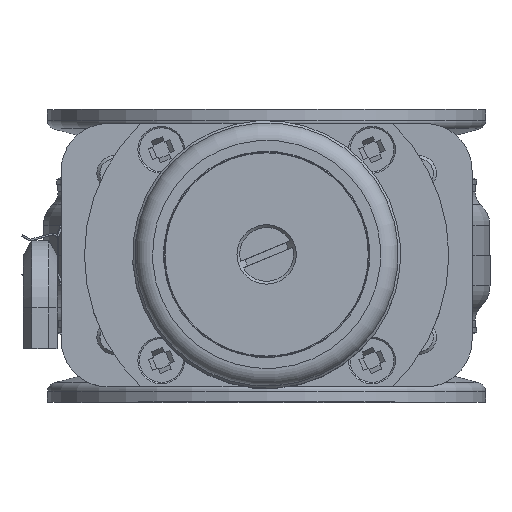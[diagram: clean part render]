
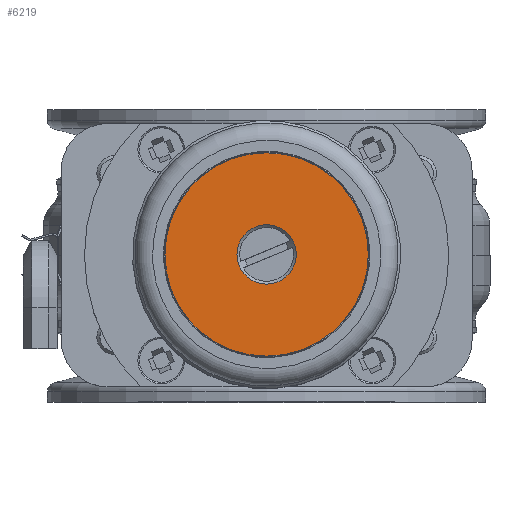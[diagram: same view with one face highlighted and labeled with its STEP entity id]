
A CAD part, top view. The second image highlights one B-rep face of the part: STEP entity #6219.
In plain terms, the highlighted planar face has unit normal (0, 0, 1) as drawn and (1, 0, 0) by its records, which use the part's own axes.
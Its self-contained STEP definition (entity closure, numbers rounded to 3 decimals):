
#6219=ADVANCED_FACE('',(#7179,#7180),#6690,.T.);
#6690=PLANE('',#12913);
#7179=FACE_BOUND('',#7518,.T.);
#7180=FACE_BOUND('',#7519,.T.);
#7518=EDGE_LOOP('',(#8351));
#7519=EDGE_LOOP('',(#8352));
#8351=ORIENTED_EDGE('',*,*,#11398,.T.);
#8352=ORIENTED_EDGE('',*,*,#11399,.F.);
#10554=VERTEX_POINT('',#20694);
#10555=VERTEX_POINT('',#20696);
#11398=EDGE_CURVE('',#10554,#10554,#12510,.T.);
#11399=EDGE_CURVE('',#10555,#10555,#12511,.T.);
#12510=CIRCLE('',#12911,5.075);
#12511=CIRCLE('',#12912,17.375);
#12911=AXIS2_PLACEMENT_3D('',#20693,#13895,#13896);
#12912=AXIS2_PLACEMENT_3D('',#20695,#13897,#13898);
#12913=AXIS2_PLACEMENT_3D('',#20697,#13899,#13900);
#13895=DIRECTION('',(-1.,0.,0.));
#13896=DIRECTION('',(0.,0.,1.));
#13897=DIRECTION('',(-1.,0.,0.));
#13898=DIRECTION('',(0.,0.,1.));
#13899=DIRECTION('',(1.,0.,0.));
#13900=DIRECTION('',(0.,0.,-1.));
#20693=CARTESIAN_POINT('',(12.1,0.,0.));
#20694=CARTESIAN_POINT('',(12.1,0.,5.075));
#20695=CARTESIAN_POINT('',(12.1,0.,0.));
#20696=CARTESIAN_POINT('',(12.1,0.,17.375));
#20697=CARTESIAN_POINT('',(12.1,17.375,0.));
